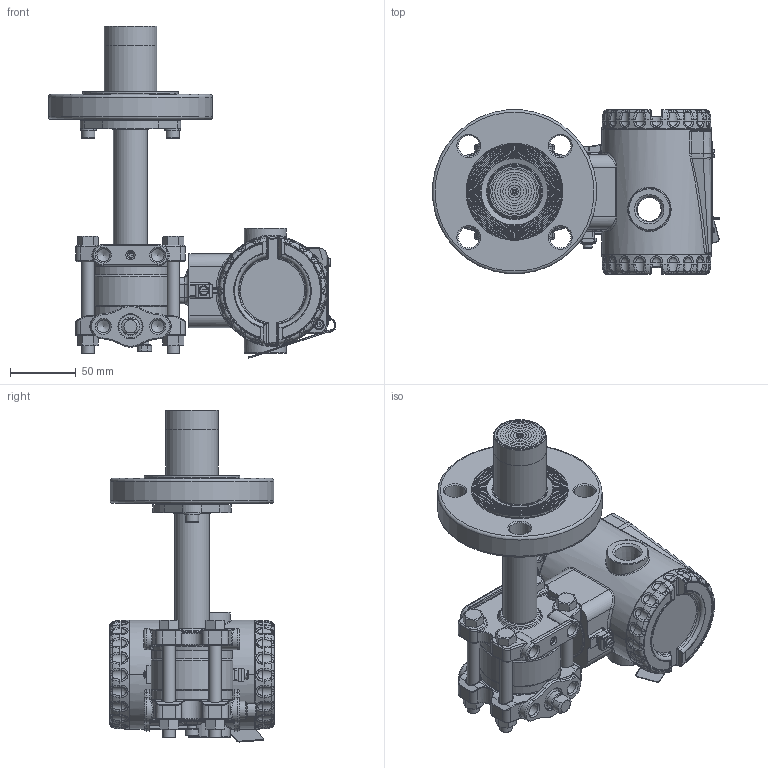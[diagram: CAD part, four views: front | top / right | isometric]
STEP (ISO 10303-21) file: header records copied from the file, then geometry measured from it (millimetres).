
FILE_DESCRIPTION(/* description */ (''),/* implementation_level */ '2;1');
FILE_NAME(/* name */ 'F:\Area\Desenvolvimento_2\Projects\Sensor\projetos\LD400-3d\dimensionais 3D clientes\LD400L\LD400L 1-1-2-150 RF ext 50 ref 1-4NPT purga acima.stp',/* time_stamp */ '2023-02-23T14:41:15-03:00',/* author */ ('inventor02'),/* organization */ (''),/* preprocessor_version */ 'ST-DEVELOPER v17',/* originating_system */ 'Autodesk Inventor 2019',/* authorisation */ '');
FILE_SCHEMA (('CONFIG_CONTROL_DESIGN'));
Products named in the file (41): LD30XL 1-1-2-150 RF ext 50 ref 1-4NPT purga acima; 204-0301-L-1-1-2 150 RF ext 50 purga acima; nivel fx3 com baixa diferencial 1-4NPT purga acima; involucro fx0-3 apos a usinagem final; flange diferencial std purga; 101-C-7484-01 flange selo nivel VR; 201-A-0504-tubo união teste 1; bujao 1-4NPT; Sangria; Porca 3-8 x 16 UNC; Paraf. 3-8 x 16 UNC; adaptação tubo x flanges 1-1-2 a 4pol; 101-B-0161-anel cortado do tubo - teste1; 101-B-0162-flange fixação tubo; ANSI B18.3.1M - M6x1 x 16; DIN 127 - A 6; flange 1-1-2 150 ext 50; 101-B-7699-01 ext 1-1-2-50; 101-B-5190-03; 101-C-3330-02; Carcaça 400 com tampas e plaqueta sem letras; 101-D-0845-05 carcaça LD400 sem letras; 101-B-3614-03-tampa 400 sem letras; Tampa visor 400 montada sem letras; 101-B-3612-05 tampa visor 400 sem letras; 101-A-6107; oring 2034; 00034775-0; WHW_250; DIN 915 - M6 x 10; Chapa aterramento externo; 201-A-1771-02 inserto terra recartilhado; AS 1969 - ST4,2; ISO 1207 - M4 x 8; ANSI B18.3.1M - M4x0,7 x 8; Subconjunto plaqueta 400; plaqueta 400 em branco; Parafuso da Plaqueta; Rebite da Plaqueta; 096-A-0169-03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
Assembly tree (50 placements, depth 4):
  LD30XL 1-1-2-150 RF ext 50 ref 1-4NPT purga acima
    204-0301-L-1-1-2 150 RF ext 50 purga acima
      nivel fx3 com baixa diferencial 1-4NPT purga acima
        involucro fx0-3 apos a usinagem final
        flange diferencial std purga
        101-C-7484-01 flange selo nivel VR
        201-A-0504-tubo união teste 1
        DIN 915 - M6 x 10
        bujao 1-4NPT
        Sangria
        Porca 3-8 x 16 UNC  x4
        Paraf. 3-8 x 16 UNC  x4
      adaptação tubo x flanges 1-1-2 a 4pol
        101-B-0161-anel cortado do tubo - teste1
        101-B-0162-flange fixação tubo
        ANSI B18.3.1M - M6x1 x 16  x2
        DIN 127 - A 6  x2
      flange 1-1-2 150 ext 50
        101-B-7699-01 ext 1-1-2-50
        101-B-5190-03
        101-C-3330-02
    Carcaça 400 com tampas e plaqueta sem letras
      101-D-0845-05 carcaça LD400 sem letras
      101-B-3614-03-tampa 400 sem letras
      Tampa visor 400 montada sem letras
        101-B-3612-05 tampa visor 400 sem letras
        101-A-6107
        oring 2034
        00034775-0
        WHW_250
      DIN 915 - M6 x 10
      Chapa aterramento externo
      201-A-1771-02 inserto terra recartilhado
      AS 1969 - ST4,2
      ISO 1207 - M4 x 8
      ANSI B18.3.1M - M4x0,7 x 8  x2
      Subconjunto plaqueta 400
        plaqueta 400 em branco
        Parafuso da Plaqueta
        Rebite da Plaqueta
        096-A-0169-03
        101-A-0502-01
Bounding box: 218.01 x 125 x 252.42 mm (x, y, z)
Volume: 881250.6 mm3; surface area: 308897 mm2
Topology: 43 solids, 43 shells, 2761 faces, 6703 edges, 4023 vertices
Faces by surface type: plane 721, cylinder 664, bspline 605, torus 473, cone 222, sphere 76
Full cylindrical faces by diameter (mm): 2 x4, 2.1 x1, 2.2 x1, 2.459 x3, 2.5 x1, 2.7 x1, 2.8 x1, 3 x4, 3.242 x3, 3.5 x1, 3.571 x1, 4 x5, 4.3 x2, 4.4 x1, 4.917 x4, 5 x1, 5.5 x3, 6 x6, 6.1 x2, 6.2 x1, 6.647 x1, 7 x5, 7.6 x2, 7.798 x4, 8 x1, 9.525 x4, 9.728 x6, 10 x2, 10.5 x8, 10.719 x2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
Entity records: 98556 total; most frequent: CARTESIAN_POINT 37075, DIRECTION 12670, ORIENTED_EDGE 12646, EDGE_CURVE 6323, AXIS2_PLACEMENT_3D 5424, VERTEX_POINT 3829, CIRCLE 3151, EDGE_LOOP 2796
